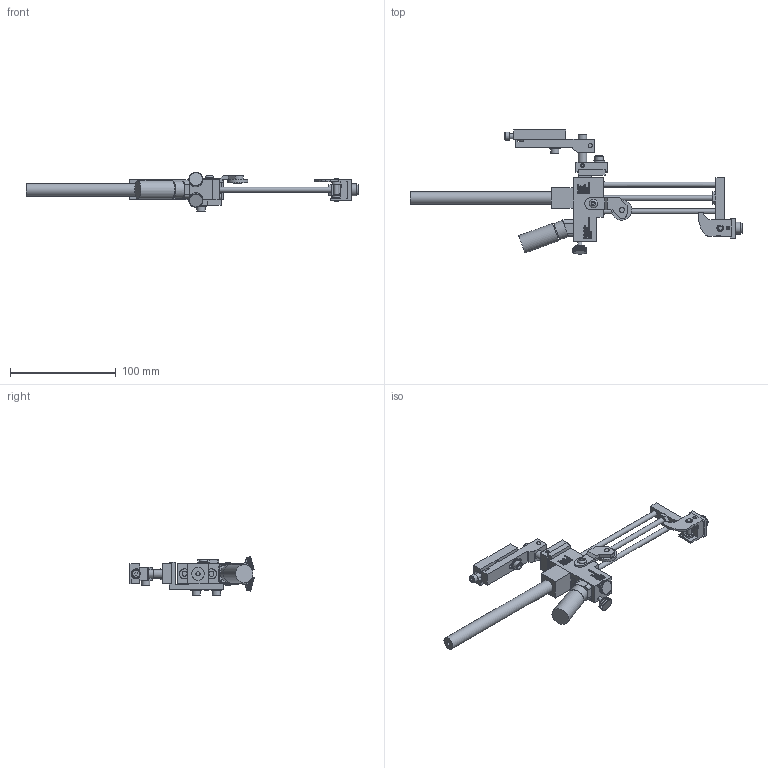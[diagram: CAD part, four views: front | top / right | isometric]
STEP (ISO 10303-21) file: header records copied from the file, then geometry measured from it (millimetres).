
FILE_DESCRIPTION((''),'2;1');
FILE_NAME('C:\Documents and Settings\Ron\My Documents\Inventor\Sprinter Drawing\Machines in Inventor\Model 44\Dot\3-eight\Ext Str\E2\Brkt\Ext\Model 44 E2 .375 Dia Dot Ext w brkt.stp','2009-01-23T08:20:30',('Ron'),(''),'Autodesk Inventor 2008','Autodesk Inventor 2008','');
FILE_SCHEMA(('AUTOMOTIVE_DESIGN { 1 0 10303 214 1 1 1 1 }'));
Length unit declared in the file: inch
Products named in the file (1): Model 44 E2 .375 Dia Dot Ext w brkt
Bounding box: 313.45 x 117.12 x 36.82 mm (x, y, z)
Volume: 113150.8 mm3; surface area: 55354.2 mm2
Topology: 28 solids, 28 shells, 6212 faces, 15420 edges, 9538 vertices
Faces by surface type: plane 4367, bspline 1320, cylinder 471, cone 48, torus 6
Full cylindrical faces by diameter (mm): 3.175 x4, 3.302 x1, 3.962 x1, 4.064 x7, 4.166 x1, 4.699 x1, 4.75 x4, 4.775 x1, 4.826 x7, 5.144 x1, 5.156 x5, 5.207 x2, 5.41 x2, 6.096 x1, 6.274 x2, 7.239 x1, 7.62 x1, 7.925 x7, 7.938 x1, 8.128 x1, 9.017 x1, 9.525 x3, 10.312 x4, 10.922 x1, 11.036 x1, 11.303 x1, 11.938 x2, 12.522 x1, 14.478 x1, 16.256 x1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
Entity records: 197809 total; most frequent: CARTESIAN_POINT 54138, ORIENTED_EDGE 30388, DIRECTION 23633, EDGE_CURVE 15194, VECTOR 11395, LINE 11395, VERTEX_POINT 9473, EDGE_LOOP 6777
